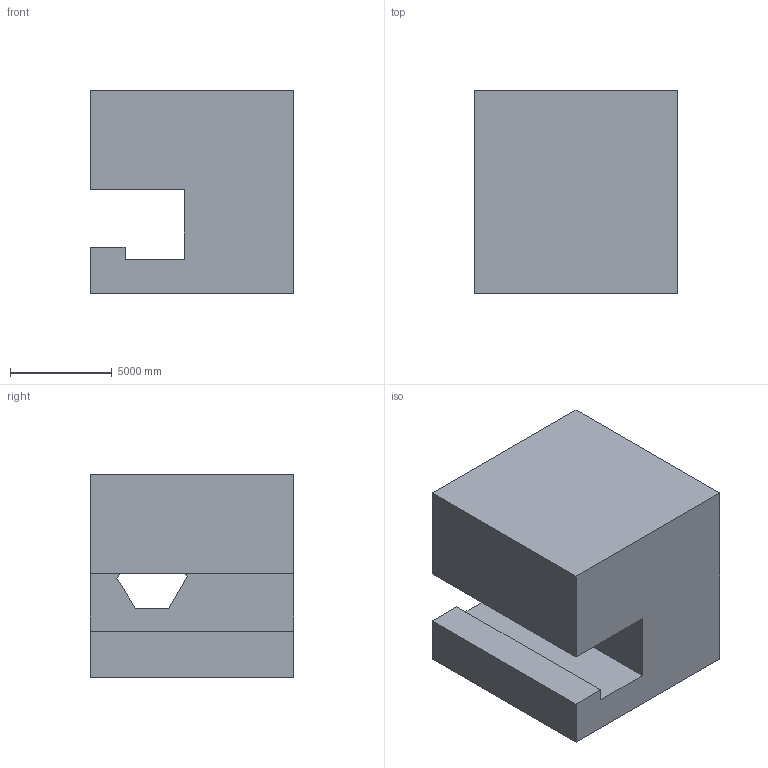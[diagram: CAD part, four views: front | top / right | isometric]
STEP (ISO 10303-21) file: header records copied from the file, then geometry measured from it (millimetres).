
FILE_DESCRIPTION (( 'STEP AP203' ), '1' );
FILE_NAME ('271.STEP', '2022-07-28T14:10:00', ( 'user' ), ( '' ), 'SwSTEP 2.0', 'SolidWorks 2021', '' );
FILE_SCHEMA (( 'CONFIG_CONTROL_DESIGN' ));
Length unit declared in the file: centimetre
Products named in the file (1): 271
Bounding box: 10000 x 10000 x 10000 mm (x, y, z)
Volume: 805248744190.3 mm3; surface area: 723362580.3 mm2
Topology: 1 solids, 1 shells, 19 faces, 54 edges, 36 vertices
Faces by surface type: plane 19
Entity records: 689 total; most frequent: CARTESIAN_POINT 110, ORIENTED_EDGE 108, DIRECTION 94, EDGE_CURVE 54, LINE 54, VECTOR 54, VERTEX_POINT 36, EDGE_LOOP 20
